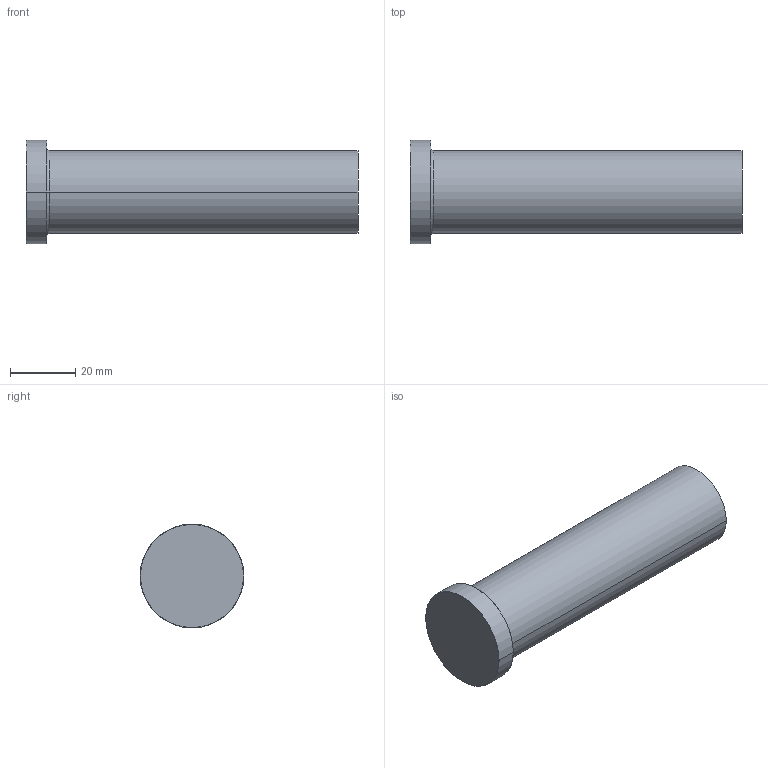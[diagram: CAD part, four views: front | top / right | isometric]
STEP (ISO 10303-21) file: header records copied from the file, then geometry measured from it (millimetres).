
FILE_DESCRIPTION (( 'STEP AP214' ), '1' );
FILE_NAME ('P47-4.STEP', '2020-03-12T12:25:38', ( '' ), ( '' ), 'SwSTEP 2.0', 'SolidWorks 2018', '' );
FILE_SCHEMA (( 'AUTOMOTIVE_DESIGN' ));
Length unit declared in the file: inch
Products named in the file (1): P47-4
Bounding box: 101.6 x 31.75 x 31.75 mm (x, y, z)
Volume: 53252.2 mm3; surface area: 9775.9 mm2
Topology: 1 solids, 1 shells, 13 faces, 24 edges, 14 vertices
Faces by surface type: cone 4, cylinder 4, plane 3, torus 2
Entity records: 366 total; most frequent: DIRECTION 68, CARTESIAN_POINT 52, ORIENTED_EDGE 48, AXIS2_PLACEMENT_3D 30, EDGE_CURVE 24, CIRCLE 16, EDGE_LOOP 14, VERTEX_POINT 14
